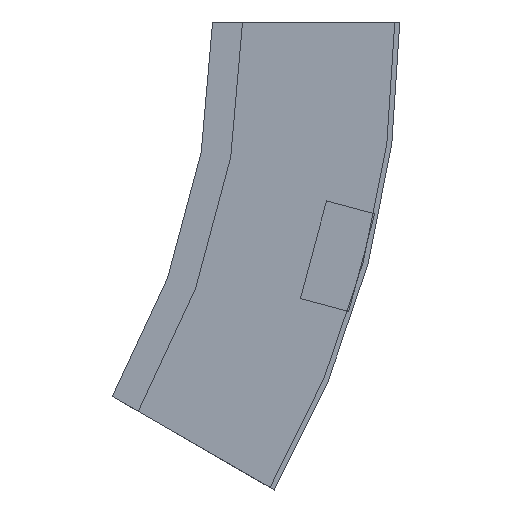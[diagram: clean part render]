
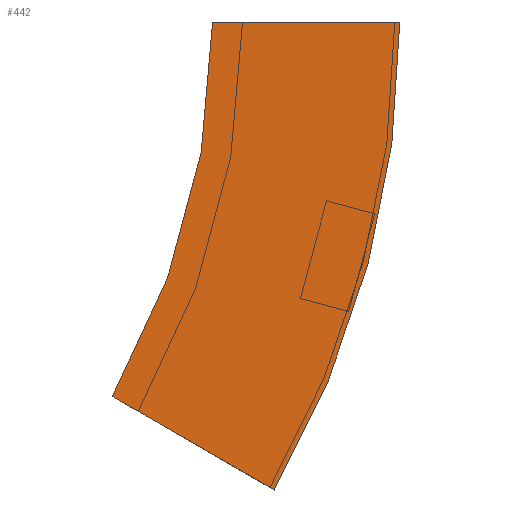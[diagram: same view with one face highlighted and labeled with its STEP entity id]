
A CAD part, left-side view. The second image highlights one B-rep face of the part: STEP entity #442.
In plain terms, the highlighted planar face has unit normal (-1, 0, 0) as drawn and (1, 0, 0) by its records, which use the part's own axes.
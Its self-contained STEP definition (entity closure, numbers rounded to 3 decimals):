
#3 = VECTOR ( 'NONE', #346, 1000. ) ;
#8 = CARTESIAN_POINT ( 'NONE',  ( 0., 0., 0. ) ) ;
#20 = PLANE ( 'NONE',  #498 ) ;
#31 = VERTEX_POINT ( 'NONE', #161 ) ;
#63 = DIRECTION ( 'NONE',  ( -1., 0., 0. ) ) ;
#65 = VERTEX_POINT ( 'NONE', #483 ) ;
#91 = DIRECTION ( 'NONE',  ( 1., 0., 0. ) ) ;
#98 = CARTESIAN_POINT ( 'NONE',  ( 0., -75., 0. ) ) ;
#121 = AXIS2_PLACEMENT_3D ( 'NONE', #297, #392, #342 ) ;
#138 = LINE ( 'NONE', #218, #293 ) ;
#139 = CIRCLE ( 'NONE', #199, 375. ) ;
#140 = EDGE_CURVE ( 'NONE', #65, #31, #139, .T. ) ;
#148 = ORIENTED_EDGE ( 'NONE', *, *, #323, .F. ) ;
#158 = ORIENTED_EDGE ( 'NONE', *, *, #256, .F. ) ;
#161 = CARTESIAN_POINT ( 'NONE',  ( 0., -24.76, -187.5 ) ) ;
#199 = AXIS2_PLACEMENT_3D ( 'NONE', #259, #91, #534 ) ;
#203 = ORIENTED_EDGE ( 'NONE', *, *, #379, .T. ) ;
#218 = CARTESIAN_POINT ( 'NONE',  ( 0., -24.76, -187.5 ) ) ;
#222 = FACE_OUTER_BOUND ( 'NONE', #290, .T. ) ;
#254 = CARTESIAN_POINT ( 'NONE',  ( 0., -75., 0. ) ) ;
#256 = EDGE_CURVE ( 'NONE', #265, #516, #529, .T. ) ;
#259 = CARTESIAN_POINT ( 'NONE',  ( 0., 300., 0. ) ) ;
#265 = VERTEX_POINT ( 'NONE', #8 ) ;
#290 = EDGE_LOOP ( 'NONE', ( #158, #148, #325, #203 ) ) ;
#293 = VECTOR ( 'NONE', #301, 1000. ) ;
#297 = CARTESIAN_POINT ( 'NONE',  ( 0., 300., 0. ) ) ;
#301 = DIRECTION ( 'NONE',  ( 0., 0.866, 0.5 ) ) ;
#309 = DIRECTION ( 'NONE',  ( 0., 0., 1. ) ) ;
#323 = EDGE_CURVE ( 'NONE', #65, #265, #536, .T. ) ;
#325 = ORIENTED_EDGE ( 'NONE', *, *, #140, .T. ) ;
#342 = DIRECTION ( 'NONE',  ( 0., -1., 0. ) ) ;
#346 = DIRECTION ( 'NONE',  ( 0., 1., 0. ) ) ;
#379 = EDGE_CURVE ( 'NONE', #31, #516, #138, .T. ) ;
#392 = DIRECTION ( 'NONE',  ( 1., 0., 0. ) ) ;
#442 = ADVANCED_FACE ( 'NONE', ( #222 ), #20, .F. ) ;
#483 = CARTESIAN_POINT ( 'NONE',  ( 0., -75., 0. ) ) ;
#494 = CARTESIAN_POINT ( 'NONE',  ( 0., 40.192, -150. ) ) ;
#498 = AXIS2_PLACEMENT_3D ( 'NONE', #98, #63, #309 ) ;
#516 = VERTEX_POINT ( 'NONE', #494 ) ;
#529 = CIRCLE ( 'NONE', #121, 300. ) ;
#534 = DIRECTION ( 'NONE',  ( 0., -1., 0. ) ) ;
#536 = LINE ( 'NONE', #254, #3 ) ;
